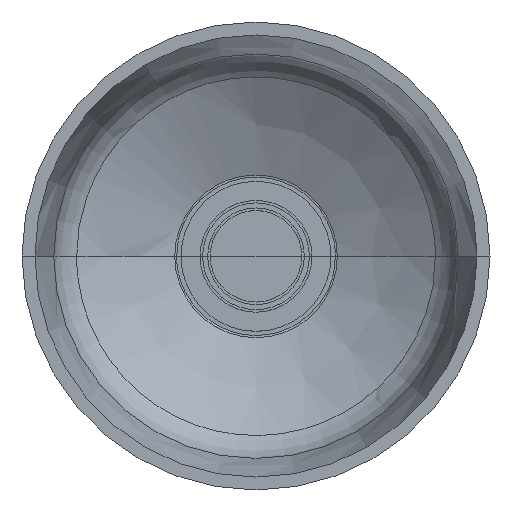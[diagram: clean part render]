
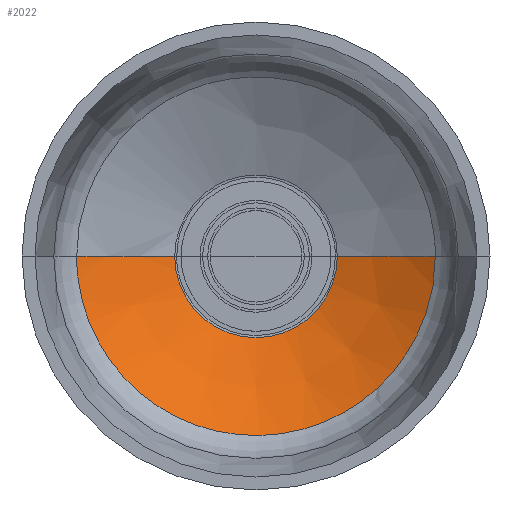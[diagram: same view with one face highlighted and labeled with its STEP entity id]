
A CAD part, top view. The second image highlights one B-rep face of the part: STEP entity #2022.
In plain terms, the highlighted free-form (B-spline) face has degree [2, 2] with [3, 5] control points.
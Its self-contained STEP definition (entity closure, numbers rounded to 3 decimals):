
#45=(
BOUNDED_CURVE()
B_SPLINE_CURVE(2,(#3560,#3561,#3562),.UNSPECIFIED.,.F.,.F.)
B_SPLINE_CURVE_WITH_KNOTS((3,3),(0.956,1.276),
 .UNSPECIFIED.)
CURVE()
GEOMETRIC_REPRESENTATION_ITEM()
RATIONAL_B_SPLINE_CURVE((1.,0.987,1.))
REPRESENTATION_ITEM('')
);
#50=(
BOUNDED_SURFACE()
B_SPLINE_SURFACE(2,2,((#3609,#3610,#3611,#3612,#3613),(#3614,#3615,#3616,
#3617,#3618),(#3619,#3620,#3621,#3622,#3623)),.UNSPECIFIED.,.F.,.F.,.F.)
B_SPLINE_SURFACE_WITH_KNOTS((3,3),(3,2,3),(-1.276,-0.956),
(-3.142,-1.571,0.),
 .UNSPECIFIED.)
GEOMETRIC_REPRESENTATION_ITEM()
RATIONAL_B_SPLINE_SURFACE(((1.,0.707,1.,0.707,1.),
(0.987,0.698,0.987,0.698,
0.987),(1.,0.707,1.,0.707,1.)))
REPRESENTATION_ITEM('')
SURFACE()
);
#205=FACE_OUTER_BOUND('',#335,.T.);
#335=EDGE_LOOP('',(#1571,#1572,#1573,#1574));
#459=CIRCLE('',#2209,31.966);
#830=B_SPLINE_CURVE_WITH_KNOTS('',3,(#3575,#3576,#3577,#3578,#3579,#3580,
#3581,#3582,#3583,#3584,#3585,#3586,#3587,#3588,#3589,#3590,#3591,#3592,
#3593,#3594,#3595,#3596,#3597,#3598,#3599,#3600,#3601,#3602,#3603,#3604,
#3605,#3606,#3607,#3608),.UNSPECIFIED.,.F.,.F.,(4,3,3,3,3,3,3,3,3,3,3,4),
(0.,0.093,0.186,0.279,
0.371,0.464,0.557,0.649,
0.742,0.835,0.928,1.),.UNSPECIFIED.);
#831=B_SPLINE_CURVE_WITH_KNOTS('',3,(#3624,#3625,#3626,#3627,#3628,#3629,
#3630,#3631,#3632,#3633,#3634),.UNSPECIFIED.,.F.,.F.,(4,1,1,1,1,1,1,1,4),
(0.,0.125,0.25,0.375,0.5,0.625,0.75,0.875,1.),.UNSPECIFIED.);
#911=VERTEX_POINT('',#3507);
#912=VERTEX_POINT('',#3524);
#913=VERTEX_POINT('',#3559);
#914=VERTEX_POINT('',#3563);
#1144=EDGE_CURVE('',#911,#912,#459,.T.);
#1145=EDGE_CURVE('',#913,#911,#45,.T.);
#1147=EDGE_CURVE('',#912,#914,#830,.T.);
#1148=EDGE_CURVE('',#913,#914,#831,.T.);
#1571=ORIENTED_EDGE('',*,*,#1144,.T.);
#1572=ORIENTED_EDGE('',*,*,#1147,.T.);
#1573=ORIENTED_EDGE('',*,*,#1148,.F.);
#1574=ORIENTED_EDGE('',*,*,#1145,.T.);
#2022=ADVANCED_FACE('',(#205),#50,.T.);
#2209=AXIS2_PLACEMENT_3D('',#3543,#2622,#2623);
#2622=DIRECTION('center_axis',(0.,0.,
-1.));
#2623=DIRECTION('ref_axis',(1.,0.,0.));
#3507=CARTESIAN_POINT('',(31.966,0.,5.15));
#3524=CARTESIAN_POINT('',(-31.966,0.,5.15));
#3543=CARTESIAN_POINT('Origin',(0.,0.,
5.15));
#3559=CARTESIAN_POINT('',(70.488,0.,23.988));
#3560=CARTESIAN_POINT('Ctrl Pts',(70.488,0.,
23.988));
#3561=CARTESIAN_POINT('Ctrl Pts',(52.743,0.,
11.468));
#3562=CARTESIAN_POINT('Ctrl Pts',(31.966,0.,
5.15));
#3563=CARTESIAN_POINT('',(-70.488,0.,23.988));
#3575=CARTESIAN_POINT('Ctrl Pts',(-31.966,0.,
5.15));
#3576=CARTESIAN_POINT('Ctrl Pts',(-33.238,0.,
5.537));
#3577=CARTESIAN_POINT('Ctrl Pts',(-34.505,0.,
5.943));
#3578=CARTESIAN_POINT('Ctrl Pts',(-35.767,0.,
6.368));
#3579=CARTESIAN_POINT('Ctrl Pts',(-37.028,0.,
6.792));
#3580=CARTESIAN_POINT('Ctrl Pts',(-38.283,0.,
7.236));
#3581=CARTESIAN_POINT('Ctrl Pts',(-39.533,0.,
7.698));
#3582=CARTESIAN_POINT('Ctrl Pts',(-40.781,0.,
8.16));
#3583=CARTESIAN_POINT('Ctrl Pts',(-42.024,0.,
8.641));
#3584=CARTESIAN_POINT('Ctrl Pts',(-43.26,0.,
9.14));
#3585=CARTESIAN_POINT('Ctrl Pts',(-44.495,0.,
9.639));
#3586=CARTESIAN_POINT('Ctrl Pts',(-45.724,0.,
10.157));
#3587=CARTESIAN_POINT('Ctrl Pts',(-46.944,0.,
10.693));
#3588=CARTESIAN_POINT('Ctrl Pts',(-48.165,0.,
11.229));
#3589=CARTESIAN_POINT('Ctrl Pts',(-49.378,0.,
11.783));
#3590=CARTESIAN_POINT('Ctrl Pts',(-50.582,0.,
12.355));
#3591=CARTESIAN_POINT('Ctrl Pts',(-51.786,0.,
12.927));
#3592=CARTESIAN_POINT('Ctrl Pts',(-52.982,0.,
13.516));
#3593=CARTESIAN_POINT('Ctrl Pts',(-54.169,0.,
14.124));
#3594=CARTESIAN_POINT('Ctrl Pts',(-55.356,0.,
14.731));
#3595=CARTESIAN_POINT('Ctrl Pts',(-56.534,0.,
15.356));
#3596=CARTESIAN_POINT('Ctrl Pts',(-57.702,0.,
15.998));
#3597=CARTESIAN_POINT('Ctrl Pts',(-58.871,0.,
16.641));
#3598=CARTESIAN_POINT('Ctrl Pts',(-60.03,0.,
17.3));
#3599=CARTESIAN_POINT('Ctrl Pts',(-61.178,0.,
17.976));
#3600=CARTESIAN_POINT('Ctrl Pts',(-62.327,0.,
18.653));
#3601=CARTESIAN_POINT('Ctrl Pts',(-63.465,0.,
19.346));
#3602=CARTESIAN_POINT('Ctrl Pts',(-64.592,0.,
20.056));
#3603=CARTESIAN_POINT('Ctrl Pts',(-65.72,0.,
20.766));
#3604=CARTESIAN_POINT('Ctrl Pts',(-66.837,0.,
21.493));
#3605=CARTESIAN_POINT('Ctrl Pts',(-67.942,0.,
22.235));
#3606=CARTESIAN_POINT('Ctrl Pts',(-68.798,0.,
22.81));
#3607=CARTESIAN_POINT('Ctrl Pts',(-69.646,0.,
23.394));
#3608=CARTESIAN_POINT('Ctrl Pts',(-70.488,0.,
23.988));
#3609=CARTESIAN_POINT('Ctrl Pts',(-31.966,0.,
5.15));
#3610=CARTESIAN_POINT('Ctrl Pts',(-31.966,-31.966,5.15));
#3611=CARTESIAN_POINT('Ctrl Pts',(0.,-31.966,
5.15));
#3612=CARTESIAN_POINT('Ctrl Pts',(31.966,-31.966,5.15));
#3613=CARTESIAN_POINT('Ctrl Pts',(31.966,0.,
5.15));
#3614=CARTESIAN_POINT('Ctrl Pts',(-52.773,0.,
11.477));
#3615=CARTESIAN_POINT('Ctrl Pts',(-52.773,-52.773,11.477));
#3616=CARTESIAN_POINT('Ctrl Pts',(0.,-52.773,
11.477));
#3617=CARTESIAN_POINT('Ctrl Pts',(52.773,-52.773,11.477));
#3618=CARTESIAN_POINT('Ctrl Pts',(52.773,0.,
11.477));
#3619=CARTESIAN_POINT('Ctrl Pts',(-70.538,0.,
24.023));
#3620=CARTESIAN_POINT('Ctrl Pts',(-70.538,-70.538,24.023));
#3621=CARTESIAN_POINT('Ctrl Pts',(0.,-70.538,
24.023));
#3622=CARTESIAN_POINT('Ctrl Pts',(70.538,-70.538,24.023));
#3623=CARTESIAN_POINT('Ctrl Pts',(70.538,0.,
24.023));
#3624=CARTESIAN_POINT('Ctrl Pts',(70.488,0.,
23.988));
#3625=CARTESIAN_POINT('Ctrl Pts',(70.58,-9.264,23.988));
#3626=CARTESIAN_POINT('Ctrl Pts',(66.774,-27.659,23.988));
#3627=CARTESIAN_POINT('Ctrl Pts',(51.151,-51.145,23.988));
#3628=CARTESIAN_POINT('Ctrl Pts',(27.674,-66.816,23.988));
#3629=CARTESIAN_POINT('Ctrl Pts',(0.,-72.323,
23.988));
#3630=CARTESIAN_POINT('Ctrl Pts',(-27.674,-66.816,23.988));
#3631=CARTESIAN_POINT('Ctrl Pts',(-51.151,-51.145,23.988));
#3632=CARTESIAN_POINT('Ctrl Pts',(-66.774,-27.659,23.988));
#3633=CARTESIAN_POINT('Ctrl Pts',(-70.58,-9.264,23.988));
#3634=CARTESIAN_POINT('Ctrl Pts',(-70.488,0.,
23.988));
